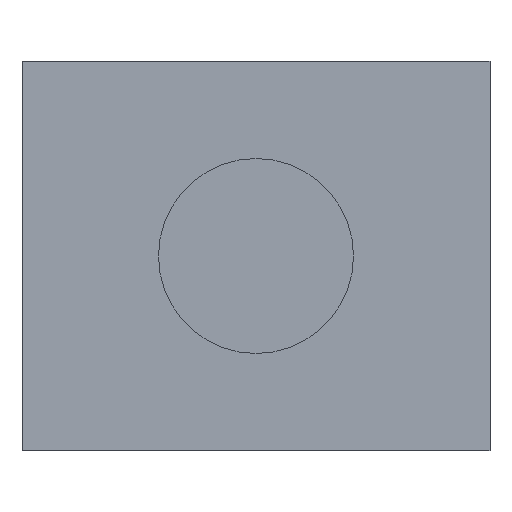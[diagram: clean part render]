
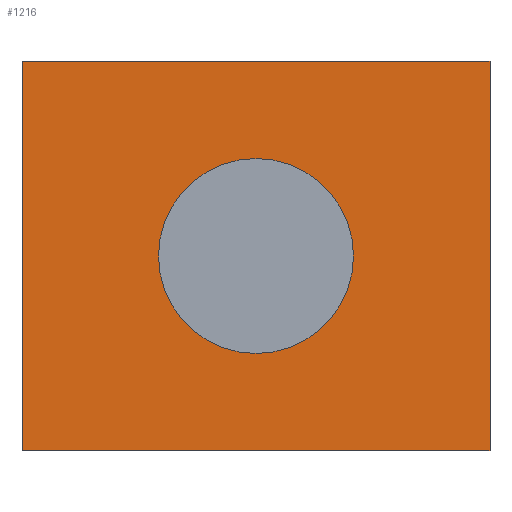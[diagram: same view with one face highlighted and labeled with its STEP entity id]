
A CAD part, front view. The second image highlights one B-rep face of the part: STEP entity #1216.
In plain terms, the highlighted planar face has unit normal (0, -1, 0).
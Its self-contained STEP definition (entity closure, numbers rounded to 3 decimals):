
#21 = EDGE_CURVE ( 'NONE', #878, #620, #782, .T. ) ;
#25 = CARTESIAN_POINT ( 'NONE',  ( 6., -11., 10. ) ) ;
#40 = VECTOR ( 'NONE', #939, 1000. ) ;
#74 = ORIENTED_EDGE ( 'NONE', *, *, #1043, .T. ) ;
#75 = CARTESIAN_POINT ( 'NONE',  ( 0., -11., 5. ) ) ;
#77 = LINE ( 'NONE', #879, #40 ) ;
#86 = DIRECTION ( 'NONE',  ( 0., -1., 0. ) ) ;
#114 = ORIENTED_EDGE ( 'NONE', *, *, #238, .T. ) ;
#143 = CARTESIAN_POINT ( 'NONE',  ( -6., -11., 0. ) ) ;
#195 = DIRECTION ( 'NONE',  ( 0., 1., 0. ) ) ;
#228 = CARTESIAN_POINT ( 'NONE',  ( 6., -11., 0. ) ) ;
#238 = EDGE_CURVE ( 'NONE', #397, #366, #926, .T. ) ;
#248 = AXIS2_PLACEMENT_3D ( 'NONE', #758, #195, #534 ) ;
#278 = VECTOR ( 'NONE', #1180, 1000. ) ;
#310 = CARTESIAN_POINT ( 'NONE',  ( 0., -11., 2.5 ) ) ;
#328 = EDGE_LOOP ( 'NONE', ( #749, #548 ) ) ;
#366 = VERTEX_POINT ( 'NONE', #143 ) ;
#397 = VERTEX_POINT ( 'NONE', #508 ) ;
#508 = CARTESIAN_POINT ( 'NONE',  ( -6., -11., 10. ) ) ;
#534 = DIRECTION ( 'NONE',  ( 0., 0., 1. ) ) ;
#548 = ORIENTED_EDGE ( 'NONE', *, *, #1117, .F. ) ;
#566 = LINE ( 'NONE', #663, #278 ) ;
#619 = DIRECTION ( 'NONE',  ( 0., 0., -1. ) ) ;
#620 = VERTEX_POINT ( 'NONE', #228 ) ;
#648 = CARTESIAN_POINT ( 'NONE',  ( 0., -11., 5. ) ) ;
#653 = FACE_OUTER_BOUND ( 'NONE', #1033, .T. ) ;
#654 = DIRECTION ( 'NONE',  ( 0., -1., 0. ) ) ;
#663 = CARTESIAN_POINT ( 'NONE',  ( -6., -11., 0. ) ) ;
#665 = DIRECTION ( 'NONE',  ( 0., 0., -1. ) ) ;
#749 = ORIENTED_EDGE ( 'NONE', *, *, #995, .F. ) ;
#758 = CARTESIAN_POINT ( 'NONE',  ( -6., -11., 10. ) ) ;
#782 = LINE ( 'NONE', #25, #963 ) ;
#812 = CIRCLE ( 'NONE', #921, 2.5 ) ;
#844 = CARTESIAN_POINT ( 'NONE',  ( 6., -11., 10. ) ) ;
#847 = CIRCLE ( 'NONE', #1377, 2.5 ) ;
#851 = CARTESIAN_POINT ( 'NONE',  ( 0., -11., 7.5 ) ) ;
#869 = EDGE_CURVE ( 'NONE', #397, #878, #77, .T. ) ;
#878 = VERTEX_POINT ( 'NONE', #844 ) ;
#879 = CARTESIAN_POINT ( 'NONE',  ( -6., -11., 10. ) ) ;
#921 = AXIS2_PLACEMENT_3D ( 'NONE', #648, #654, #665 ) ;
#926 = LINE ( 'NONE', #1293, #1370 ) ;
#939 = DIRECTION ( 'NONE',  ( 1., 0., 0. ) ) ;
#963 = VECTOR ( 'NONE', #1288, 1000. ) ;
#972 = DIRECTION ( 'NONE',  ( 0., 0., -1. ) ) ;
#990 = FACE_BOUND ( 'NONE', #328, .T. ) ;
#995 = EDGE_CURVE ( 'NONE', #1026, #1440, #847, .T. ) ;
#1026 = VERTEX_POINT ( 'NONE', #310 ) ;
#1033 = EDGE_LOOP ( 'NONE', ( #74, #1109, #1059, #114 ) ) ;
#1043 = EDGE_CURVE ( 'NONE', #366, #620, #566, .T. ) ;
#1059 = ORIENTED_EDGE ( 'NONE', *, *, #869, .F. ) ;
#1109 = ORIENTED_EDGE ( 'NONE', *, *, #21, .F. ) ;
#1117 = EDGE_CURVE ( 'NONE', #1440, #1026, #812, .T. ) ;
#1180 = DIRECTION ( 'NONE',  ( 1., 0., 0. ) ) ;
#1216 = ADVANCED_FACE ( 'NONE', ( #990, #653 ), #1315, .F. ) ;
#1288 = DIRECTION ( 'NONE',  ( 0., 0., -1. ) ) ;
#1293 = CARTESIAN_POINT ( 'NONE',  ( -6., -11., 10. ) ) ;
#1315 = PLANE ( 'NONE',  #248 ) ;
#1370 = VECTOR ( 'NONE', #972, 1000. ) ;
#1377 = AXIS2_PLACEMENT_3D ( 'NONE', #75, #86, #619 ) ;
#1440 = VERTEX_POINT ( 'NONE', #851 ) ;
